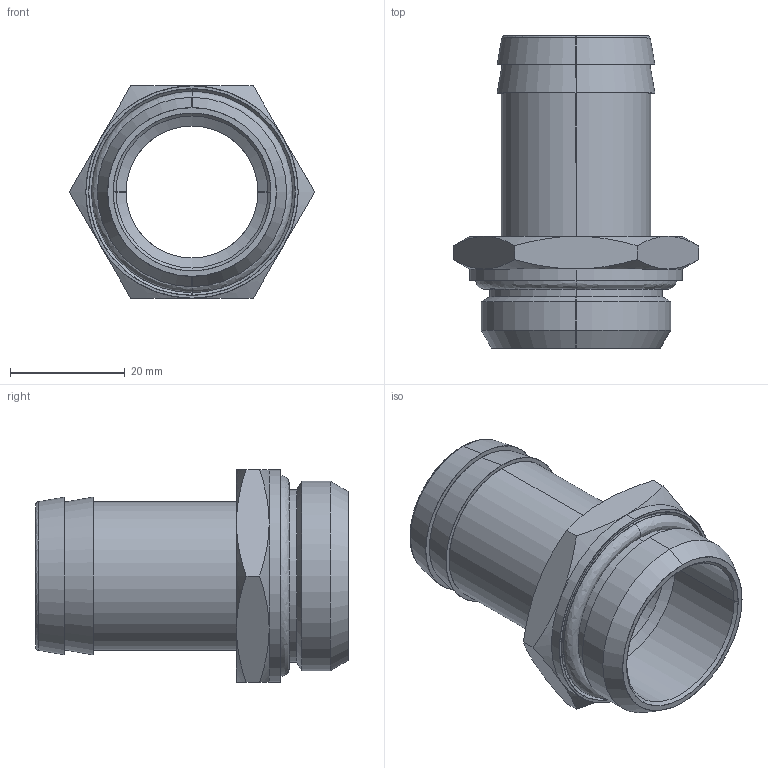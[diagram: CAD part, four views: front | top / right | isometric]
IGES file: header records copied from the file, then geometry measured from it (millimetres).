
Start section: SolidWorks IGES file using analytic representation for surfaces
Global section: file name: K:\Disegni Esecutivi\ACCESSORI\3044\ASSIEMI_.IGES_3044\0304400019.IGS; native system: SolidWorks 2015; preprocessor: SolidWorks 2015; author: cad06; date: 150807.142441; units: millimetre
Bounding box: 42.72 x 54.5 x 37 mm (x, y, z)
Surface area: 11644.8 mm2 (no closed solid volume)
Topology: 0 solids, 0 shells, 56 faces, 940 edges, 940 vertices
Faces by surface type: revolution 38, bspline 18
